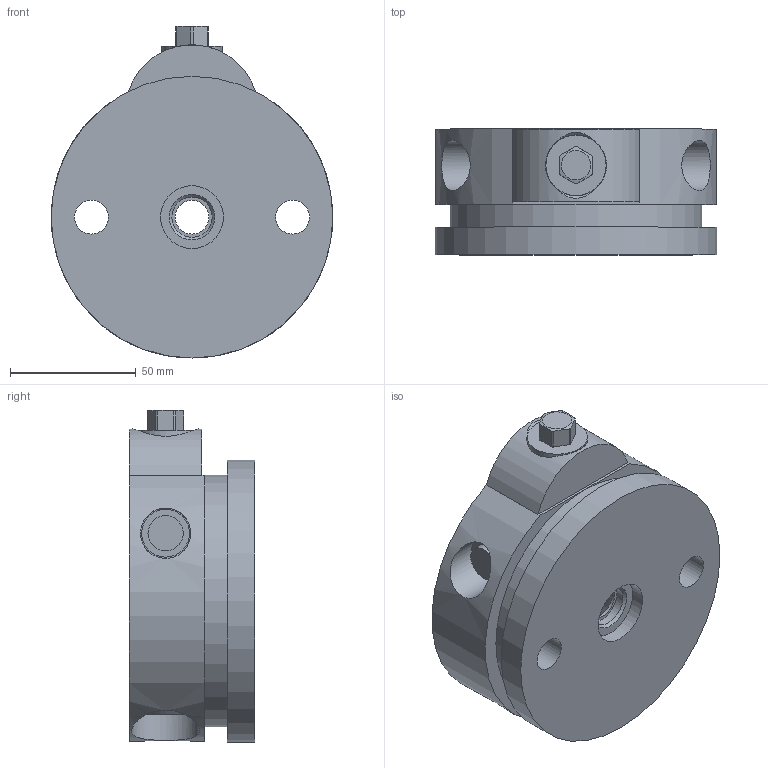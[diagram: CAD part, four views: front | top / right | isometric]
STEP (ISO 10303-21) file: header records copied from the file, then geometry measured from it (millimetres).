
FILE_DESCRIPTION( ( 'STEP AP203' ), '1' );
FILE_NAME( 'p:/temp/worker_12/temp/exporttempdir_4244_336_KcGKQ/format_0/AMF535617.stp', '2020-03-20T05:47:04', ( 'License CC BY-ND 4.0' ), ( 'CADENAS' ), ' ', 'PARTsolutions', ' ' );
FILE_SCHEMA( ( 'CONFIG_CONTROL_DESIGN' ) );
Length unit declared in the file: millimetre
Products named in the file (1): _AMF535617
Bounding box: 112 x 50 x 132 mm (x, y, z)
Volume: 425591.2 mm3; surface area: 56500 mm2
Topology: 1 solids, 1 shells, 96 faces, 213 edges, 139 vertices
Faces by surface type: plane 53, cylinder 30, cone 13
Full cylindrical faces by diameter (mm): 13.5 x3, 14 x2, 16 x1, 19 x2, 20 x4, 24 x1, 24.2 x1, 25 x1, 26 x2, 27 x2, 32 x1, 100 x1, 112 x1
Entity records: 3035 total; most frequent: CARTESIAN_POINT 954, DIRECTION 433, ORIENTED_EDGE 362, AXIS2_PLACEMENT_3D 181, EDGE_CURVE 181, EDGE_LOOP 149, VERTEX_POINT 134, FACE_OUTER_BOUND 118
